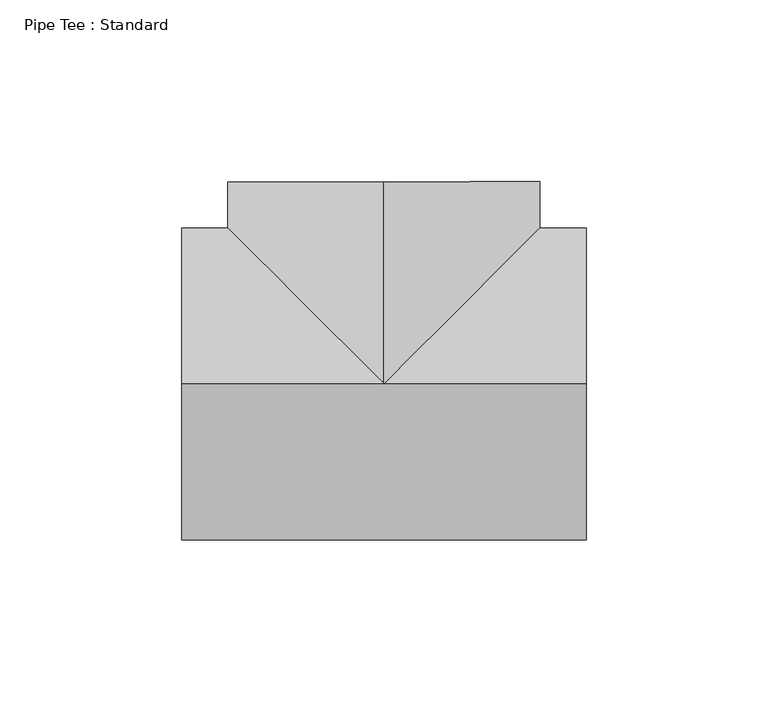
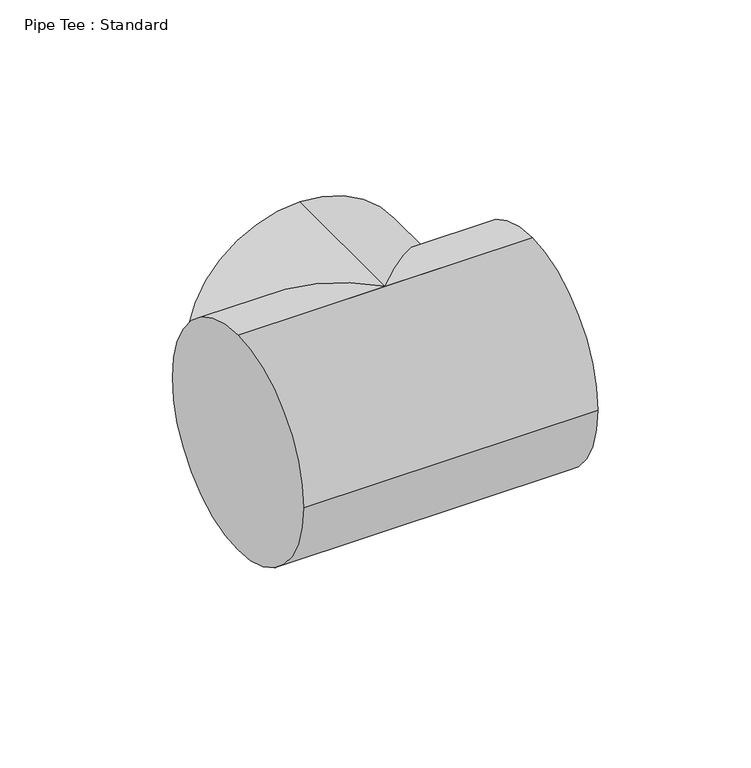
"""IFC4 building model written with IfcOpenShell, lengths in millimetres: pipe fitting geometry, Pipe Tee : Standard."""

from ifc_helpers import new_model, si_unit, frame, origin, place, context, project, spatial, circle_curve, ellipse_curve, source, transform, mapped, element, save
from ifc_brep_helpers import plane_surface, cylinder_surface, advanced_brep


def pipe_tee_standard_047cd2b9(model_context):
    return source(origin(), model_context, "Body", "AdvancedBrep", [
        advanced_brep(
        [(-55.5625, 0.0, 42.8625), (-55.5625, 42.8625, 0.0), (-55.5625, 0.0, -42.8625), (-55.5625, -42.8625, 0.0), (55.5625, 0.0, 42.8625), (55.5625, -42.8625, 0.0), (55.5625, 0.0, -42.8625), (55.5625, 42.8625, 0.0), (0.0, 0.0, 42.8625), (0.0, 0.0, -42.8625), (42.8011829, 42.8625, 0.0), (-42.923905, 42.8625, 0.0), (-0.079542, 55.5624431, 42.8625), (42.7829141, 55.623804, 0.0), (-0.079542, 55.5624431, -42.8625), (-42.9419981, 55.5010821, 0.0)],
        [
            (0, 1, circle_curve(frame((-55.5625, 0.0, 0.0), z_axis=(-1.0, 0.0, 0.0), x_axis=(0.0, -1.0, 0.0)), 42.8625)),
            (1, 2, circle_curve(frame((-55.5625, 0.0, 0.0), z_axis=(-1.0, 0.0, 0.0), x_axis=(0.0, -1.0, 0.0)), 42.8625)),
            (2, 3, circle_curve(frame((-55.5625, 0.0, 0.0), z_axis=(-1.0, 0.0, 0.0), x_axis=(0.0, -1.0, 0.0)), 42.8625)),
            (3, 0, circle_curve(frame((-55.5625, 0.0, 0.0), z_axis=(-1.0, 0.0, 0.0), x_axis=(0.0, -1.0, 0.0)), 42.8625)),
            (4, 5, circle_curve(frame((55.5625, 0.0, 0.0), z_axis=(1.0, 0.0, 0.0), x_axis=(0.0, -1.0, 0.0)), 42.8625)),
            (5, 6, circle_curve(frame((55.5625, 0.0, 0.0), z_axis=(1.0, 0.0, 0.0), x_axis=(0.0, -1.0, 0.0)), 42.8625)),
            (6, 7, circle_curve(frame((55.5625, 0.0, 0.0), z_axis=(1.0, 0.0, 0.0), x_axis=(0.0, -1.0, 0.0)), 42.8625)),
            (7, 4, circle_curve(frame((55.5625, 0.0, 0.0), z_axis=(1.0, 0.0, 0.0), x_axis=(0.0, -1.0, 0.0)), 42.8625)),
            (3, 5),
            (4, 8),
            (8, 0),
            (2, 9),
            (9, 6),
            (9, 10, ellipse_curve(frame((0.0, 0.0, 0.0), z_axis=(0.7076127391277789, -0.7066004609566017, 0.0), x_axis=(-0.7066004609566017, -0.7076127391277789, 0.0)), 60.5733866, 42.8625)),
            (10, 7),
            (1, 11),
            (11, 9, ellipse_curve(frame((0.0, 0.0, 0.0), z_axis=(-0.7066004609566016, -0.707612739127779, 0.0), x_axis=(-0.7076127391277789, 0.7066004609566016, 0.0)), 60.6601642, 42.8625)),
            (8, 11, ellipse_curve(frame((0.0, 0.0, 0.0), z_axis=(-0.7066004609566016, -0.707612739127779, 0.0), x_axis=(-0.7076127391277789, 0.7066004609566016, 0.0)), 60.6601642, 42.8625)),
            (10, 8, ellipse_curve(frame((0.0, 0.0, 0.0), z_axis=(0.7076127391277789, -0.7066004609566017, 0.0), x_axis=(-0.7066004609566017, -0.7076127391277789, 0.0)), 60.5733866, 42.8625)),
            (12, 13, circle_curve(frame((-0.079542, 55.5624431, 0.0), z_axis=(-0.001431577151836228, 0.9999989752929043, 0.0), x_axis=(0.9999989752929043, 0.001431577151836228, 0.0)), 42.8625)),
            (13, 14, circle_curve(frame((-0.079542, 55.5624431, 0.0), z_axis=(-0.001431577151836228, 0.9999989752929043, 0.0), x_axis=(0.9999989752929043, 0.001431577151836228, 0.0)), 42.8625)),
            (14, 15, circle_curve(frame((-0.079542, 55.5624431, 0.0), z_axis=(-0.001431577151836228, 0.9999989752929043, 0.0), x_axis=(0.9999989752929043, 0.001431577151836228, 0.0)), 42.8625)),
            (15, 12, circle_curve(frame((-0.079542, 55.5624431, 0.0), z_axis=(-0.001431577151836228, 0.9999989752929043, 0.0), x_axis=(0.9999989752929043, 0.001431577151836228, 0.0)), 42.8625)),
            (12, 8),
            (10, 13),
            (9, 14),
            (11, 15),
        ],
        [
            plane_surface(frame((-55.5625, 0.0, 0.0), z_axis=(-1.0, 0.0, 0.0), x_axis=(0.0, 0.0, 1.0))),
            plane_surface(frame((55.5625, 0.0, 0.0), z_axis=(1.0, 0.0, 0.0), x_axis=(0.0, 0.0, 1.0))),
            cylinder_surface(frame((-55.5625, 0.0, 0.0), z_axis=(-1.0, 0.0, 0.0), x_axis=(0.0, -1.0, 0.0)), 42.8625),
            plane_surface(frame((-0.079542, 55.5624431, 0.0), z_axis=(-0.001431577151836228, 0.9999989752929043, 0.0), x_axis=(0.0, 0.0, 1.0))),
            cylinder_surface(frame((0.0, 0.0, 0.0), z_axis=(0.001431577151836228, -0.9999989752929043, 0.0), x_axis=(0.9999989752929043, 0.001431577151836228, 0.0)), 42.8625),
        ],
        [
            (0, [[1, 2, 3, 4]]),
            (1, [[5, 6, 7, 8]]),
            (2, [[9, -5, 10, 11, -4]]),
            (2, [[12, 13, -6, -9, -3]]),
            (2, [[-13, 14, 15, -7]]),
            (2, [[16, 17, -12, -2]]),
            (2, [[-11, 18, -16, -1]]),
            (2, [[-15, 19, -10, -8]]),
            (3, [[20, 21, 22, 23]]),
            (4, [[24, -19, 25, -20]]),
            (4, [[-25, -14, 26, -21]]),
            (4, [[-26, -17, 27, -22]]),
            (4, [[-27, -18, -24, -23]]),
        ],
    ),
        advanced_brep(
        [(-55.5625, 0.0, 42.8625), (-55.5625, 42.8625, 0.0), (-55.5625, 0.0, -42.8625), (-55.5625, -42.8625, 0.0), (55.5625, 0.0, 42.8625), (55.5625, -42.8625, 0.0), (55.5625, 0.0, -42.8625), (55.5625, 42.8625, 0.0), (0.0, 0.0, 42.8625), (0.0, 0.0, -42.8625), (42.8011829, 42.8625, 0.0), (-42.923905, 42.8625, 0.0), (-0.079542, 55.5624431, 42.8625), (42.7829141, 55.623804, 0.0), (-0.079542, 55.5624431, -42.8625), (-42.9419981, 55.5010821, 0.0)],
        [
            (0, 1, circle_curve(frame((-55.5625, 0.0, 0.0), z_axis=(-1.0, 0.0, 0.0), x_axis=(0.0, -1.0, 0.0)), 42.8625)),
            (1, 2, circle_curve(frame((-55.5625, 0.0, 0.0), z_axis=(-1.0, 0.0, 0.0), x_axis=(0.0, -1.0, 0.0)), 42.8625)),
            (2, 3, circle_curve(frame((-55.5625, 0.0, 0.0), z_axis=(-1.0, 0.0, 0.0), x_axis=(0.0, -1.0, 0.0)), 42.8625)),
            (3, 0, circle_curve(frame((-55.5625, 0.0, 0.0), z_axis=(-1.0, 0.0, 0.0), x_axis=(0.0, -1.0, 0.0)), 42.8625)),
            (4, 5, circle_curve(frame((55.5625, 0.0, 0.0), z_axis=(1.0, 0.0, 0.0), x_axis=(0.0, -1.0, 0.0)), 42.8625)),
            (5, 6, circle_curve(frame((55.5625, 0.0, 0.0), z_axis=(1.0, 0.0, 0.0), x_axis=(0.0, -1.0, 0.0)), 42.8625)),
            (6, 7, circle_curve(frame((55.5625, 0.0, 0.0), z_axis=(1.0, 0.0, 0.0), x_axis=(0.0, -1.0, 0.0)), 42.8625)),
            (7, 4, circle_curve(frame((55.5625, 0.0, 0.0), z_axis=(1.0, 0.0, 0.0), x_axis=(0.0, -1.0, 0.0)), 42.8625)),
            (3, 5),
            (4, 8),
            (8, 0),
            (2, 9),
            (9, 6),
            (9, 10, ellipse_curve(frame((0.0, 0.0, 0.0), z_axis=(0.70761273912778, -0.7066004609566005, 0.0), x_axis=(-0.7066004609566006, -0.7076127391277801, 0.0)), 60.5733866, 42.8625)),
            (10, 7),
            (1, 11),
            (11, 9, ellipse_curve(frame((0.0, 0.0, 0.0), z_axis=(-0.7066004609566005, -0.7076127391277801, 0.0), x_axis=(-0.70761273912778, 0.7066004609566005, 0.0)), 60.6601642, 42.8625)),
            (8, 11, ellipse_curve(frame((0.0, 0.0, 0.0), z_axis=(-0.7066004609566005, -0.7076127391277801, 0.0), x_axis=(-0.70761273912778, 0.7066004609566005, 0.0)), 60.6601642, 42.8625)),
            (10, 8, ellipse_curve(frame((0.0, 0.0, 0.0), z_axis=(0.70761273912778, -0.7066004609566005, 0.0), x_axis=(-0.7066004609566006, -0.7076127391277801, 0.0)), 60.5733866, 42.8625)),
            (12, 13, circle_curve(frame((-0.079542, 55.5624431, 0.0), z_axis=(-0.001431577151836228, 0.9999989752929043, 0.0), x_axis=(0.9999989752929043, 0.001431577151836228, 0.0)), 42.8625)),
            (13, 14, circle_curve(frame((-0.079542, 55.5624431, 0.0), z_axis=(-0.001431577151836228, 0.9999989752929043, 0.0), x_axis=(0.9999989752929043, 0.001431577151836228, 0.0)), 42.8625)),
            (14, 15, circle_curve(frame((-0.079542, 55.5624431, 0.0), z_axis=(-0.001431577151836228, 0.9999989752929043, 0.0), x_axis=(0.9999989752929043, 0.001431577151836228, 0.0)), 42.8625)),
            (15, 12, circle_curve(frame((-0.079542, 55.5624431, 0.0), z_axis=(-0.001431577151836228, 0.9999989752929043, 0.0), x_axis=(0.9999989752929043, 0.001431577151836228, 0.0)), 42.8625)),
            (12, 8),
            (10, 13),
            (9, 14),
            (11, 15),
        ],
        [
            plane_surface(frame((-55.5625, 0.0, 0.0), z_axis=(-1.0, 0.0, 0.0), x_axis=(0.0, 0.0, 1.0))),
            plane_surface(frame((55.5625, 0.0, 0.0), z_axis=(1.0, 0.0, 0.0), x_axis=(0.0, 0.0, 1.0))),
            cylinder_surface(frame((-55.5625, 0.0, 0.0), z_axis=(-1.0, 0.0, 0.0), x_axis=(0.0, -1.0, 0.0)), 42.8625),
            plane_surface(frame((-0.079542, 55.5624431, 0.0), z_axis=(-0.001431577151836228, 0.9999989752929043, 0.0), x_axis=(0.0, 0.0, 1.0))),
            cylinder_surface(frame((0.0, 0.0, 0.0), z_axis=(0.001431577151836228, -0.9999989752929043, 0.0), x_axis=(0.9999989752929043, 0.001431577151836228, 0.0)), 42.8625),
        ],
        [
            (0, [[1, 2, 3, 4]]),
            (1, [[5, 6, 7, 8]]),
            (2, [[9, -5, 10, 11, -4]]),
            (2, [[12, 13, -6, -9, -3]]),
            (2, [[-13, 14, 15, -7]]),
            (2, [[16, 17, -12, -2]]),
            (2, [[-11, 18, -16, -1]]),
            (2, [[-15, 19, -10, -8]]),
            (3, [[20, 21, 22, 23]]),
            (4, [[24, -19, 25, -20]]),
            (4, [[-25, -14, 26, -21]]),
            (4, [[-26, -17, 27, -22]]),
            (4, [[-27, -18, -24, -23]]),
        ],
    ),
    ])


if __name__ == "__main__":
    model = new_model("IFC4")
    model_context = context("Model", 3, world=origin())
    ifc_project = project(units=[si_unit("LENGTHUNIT", "METRE", prefix="MILLI")], contexts=[model_context])
    site = spatial("IfcSite", under=ifc_project)
    building = spatial("IfcBuilding", under=site)
    placement = place(None, origin())
    pipe_tee_standard_shape = pipe_tee_standard_047cd2b9(model_context)
    element("IfcPipeFitting", 1, ObjectType="Pipe Tee : Standard", at=placement, inside=building, context=model_context, shape_type="MappedRepresentation", body=[
        mapped(pipe_tee_standard_shape, transform((0.0, 0.0, 0.0), x_axis=(1.0, 0.0, 0.0), y_axis=(0.0, 1.0, 0.0), z_axis=(0.0, 0.0, 1.0))),
    ])
    save(model, "model.ifc")
